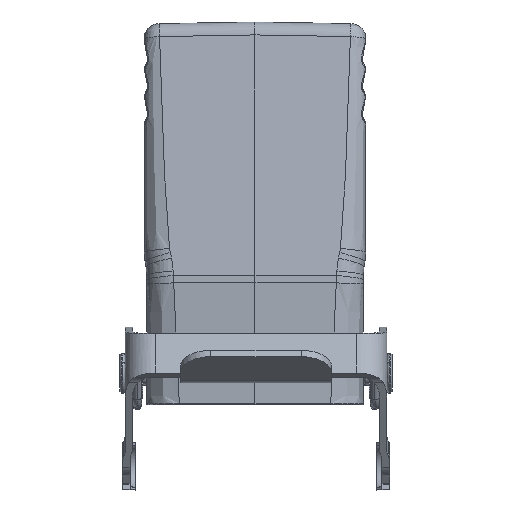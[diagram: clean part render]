
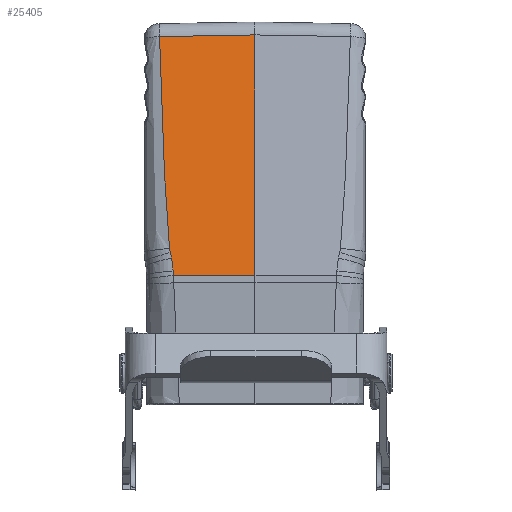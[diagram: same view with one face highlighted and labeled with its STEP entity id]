
A CAD part, left-side view. The second image highlights one B-rep face of the part: STEP entity #25405.
In plain terms, the highlighted planar face has unit normal (-0.989, 0.018, 0.145) as drawn and (-0.989, 0.145, -0.017) by its records, which use the part's own axes.
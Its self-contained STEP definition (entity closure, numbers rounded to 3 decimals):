
#982 = ORIENTED_EDGE ( 'NONE', *, *, #28931, .F. ) ;
#1087 = CARTESIAN_POINT ( 'NONE',  ( -35.461, 57.654, -16.759 ) ) ;
#1335 = ORIENTED_EDGE ( 'NONE', *, *, #23067, .F. ) ;
#1625 = CARTESIAN_POINT ( 'NONE',  ( -35.992, 54.101, -16.245 ) ) ;
#1949 = B_SPLINE_CURVE_WITH_KNOTS ( 'NONE', 3,
 ( #21994, #28999, #15184, #3487, #1087, #15086 ),
 .UNSPECIFIED., .F., .F.,
 ( 4, 2, 4 ),
 ( 0., 0.5, 1. ),
 .UNSPECIFIED. ) ;
#1966 = EDGE_CURVE ( 'NONE', #25853, #11123, #12954, .T. ) ;
#2271 = ORIENTED_EDGE ( 'NONE', *, *, #14588, .F. ) ;
#2609 = EDGE_CURVE ( 'NONE', #17145, #25853, #29143, .T. ) ;
#2759 = CARTESIAN_POINT ( 'NONE',  ( -35.73, 55.873, -16.368 ) ) ;
#2795 = PLANE ( 'NONE',  #26449 ) ;
#2859 = VERTEX_POINT ( 'NONE', #5809 ) ;
#3014 = ORIENTED_EDGE ( 'NONE', *, *, #2609, .F. ) ;
#3487 = CARTESIAN_POINT ( 'NONE',  ( -35.488, 57.471, -16.719 ) ) ;
#3491 = CARTESIAN_POINT ( 'NONE',  ( -36.091, 53.434, -16.218 ) ) ;
#3713 = CARTESIAN_POINT ( 'NONE',  ( -36.032, 53.834, -16.238 ) ) ;
#3843 = B_SPLINE_CURVE_WITH_KNOTS ( 'NONE', 3,
 ( #20113, #3932, #22517, #4149, #8594, #13260, #17967, #15623 ),
 .UNSPECIFIED., .F., .F.,
 ( 4, 2, 2, 4 ),
 ( 0., 0.5, 0.75, 1. ),
 .UNSPECIFIED. ) ;
#3932 = CARTESIAN_POINT ( 'NONE',  ( -34.271, 65.64, -17.62 ) ) ;
#4149 = CARTESIAN_POINT ( 'NONE',  ( -31.68, 83.171, -18.354 ) ) ;
#4278 = CARTESIAN_POINT ( 'NONE',  ( -29.091, 100.704, -18.941 ) ) ;
#4852 = LINE ( 'NONE', #29282, #9231 ) ;
#5117 = CARTESIAN_POINT ( 'NONE',  ( -35.32, 58.585, -16.954 ) ) ;
#5809 = CARTESIAN_POINT ( 'NONE',  ( -35.31, 58.655, -16.961 ) ) ;
#6828 = LINE ( 'NONE', #21978, #11527 ) ;
#6961 = CARTESIAN_POINT ( 'NONE',  ( -29.243, 101.99, 0.379 ) ) ;
#7299 = B_SPLINE_CURVE_WITH_KNOTS ( 'NONE', 3,
 ( #7614, #23874, #12275, #28535 ),
 .UNSPECIFIED., .F., .F.,
 ( 4, 4 ),
 ( 0., 1. ),
 .UNSPECIFIED. ) ;
#7437 = CARTESIAN_POINT ( 'NONE',  ( -35.423, 57.901, -16.825 ) ) ;
#7536 = CARTESIAN_POINT ( 'NONE',  ( -35.403, 58.035, -16.858 ) ) ;
#7614 = CARTESIAN_POINT ( 'NONE',  ( -29.091, 100.704, -18.941 ) ) ;
#7619 =( BOUNDED_CURVE ( )  B_SPLINE_CURVE ( 3, ( #21281, #7437, #7536, #19161, #9495, #5117, #23688 ),
 .UNSPECIFIED., .F., .T. ) 
 B_SPLINE_CURVE_WITH_KNOTS ( ( 4, 1, 1, 1, 4 ),
 ( 0., 0.248, 0.498, 0.749, 1. ),
 .UNSPECIFIED. ) 
 CURVE ( )  GEOMETRIC_REPRESENTATION_ITEM ( )  RATIONAL_B_SPLINE_CURVE ( ( 1.175, 1.175, 1.175, 1.175, 1.175, 1.175, 1.175 ) ) 
 REPRESENTATION_ITEM ( '' )  );
#7830 = VERTEX_POINT ( 'NONE', #14218 ) ;
#8173 = CARTESIAN_POINT ( 'NONE',  ( -36.111, 53.301, -16.208 ) ) ;
#8594 = CARTESIAN_POINT ( 'NONE',  ( -31.163, 86.678, -18.459 ) ) ;
#9231 = VECTOR ( 'NONE', #20071, 1000. ) ;
#9495 = CARTESIAN_POINT ( 'NONE',  ( -35.341, 58.445, -16.937 ) ) ;
#9617 = ORIENTED_EDGE ( 'NONE', *, *, #15700, .F. ) ;
#9937 = ORIENTED_EDGE ( 'NONE', *, *, #10284, .F. ) ;
#10044 = CARTESIAN_POINT ( 'NONE',  ( -35.599, 56.739, -16.56 ) ) ;
#10284 = EDGE_CURVE ( 'NONE', #13173, #7830, #4852, .T. ) ;
#10305 = DIRECTION ( 'NONE',  ( 0.989, -0.145, 0.017 ) ) ;
#10384 = ORIENTED_EDGE ( 'NONE', *, *, #26530, .F. ) ;
#10507 = DIRECTION ( 'NONE',  ( 0.017, -0.001, -1. ) ) ;
#11123 = VERTEX_POINT ( 'NONE', #10044 ) ;
#11527 = VECTOR ( 'NONE', #10507, 1000. ) ;
#12275 = CARTESIAN_POINT ( 'NONE',  ( -29.282, 100.925, -6.314 ) ) ;
#12378 = EDGE_LOOP ( 'NONE', ( #1335, #9617, #982, #17845, #3014, #10384, #9937, #2271 ) ) ;
#12954 = B_SPLINE_CURVE_WITH_KNOTS ( 'NONE', 3,
 ( #14321, #28310, #2759, #18738 ),
 .UNSPECIFIED., .F., .F.,
 ( 4, 4 ),
 ( 0., 1. ),
 .UNSPECIFIED. ) ;
#13139 = CARTESIAN_POINT ( 'NONE',  ( -36.071, 53.567, -16.229 ) ) ;
#13173 = VERTEX_POINT ( 'NONE', #14373 ) ;
#13260 = CARTESIAN_POINT ( 'NONE',  ( -30.127, 93.692, -18.679 ) ) ;
#14218 = CARTESIAN_POINT ( 'NONE',  ( -36.394, 53.321, 0. ) ) ;
#14321 = CARTESIAN_POINT ( 'NONE',  ( -35.992, 54.101, -16.245 ) ) ;
#14373 = CARTESIAN_POINT ( 'NONE',  ( -29.377, 101.035, 0. ) ) ;
#14588 = EDGE_CURVE ( 'NONE', #16646, #13173, #7299, .T. ) ;
#15086 = CARTESIAN_POINT ( 'NONE',  ( -35.433, 57.835, -16.808 ) ) ;
#15184 = CARTESIAN_POINT ( 'NONE',  ( -35.544, 57.105, -16.639 ) ) ;
#15513 = CARTESIAN_POINT ( 'NONE',  ( -36.012, 53.968, -16.238 ) ) ;
#15623 = CARTESIAN_POINT ( 'NONE',  ( -29.091, 100.704, -18.941 ) ) ;
#15700 = EDGE_CURVE ( 'NONE', #16480, #2859, #7619, .T. ) ;
#16480 = VERTEX_POINT ( 'NONE', #25494 ) ;
#16646 = VERTEX_POINT ( 'NONE', #4278 ) ;
#17145 = VERTEX_POINT ( 'NONE', #19772 ) ;
#17845 = ORIENTED_EDGE ( 'NONE', *, *, #1966, .F. ) ;
#17967 = CARTESIAN_POINT ( 'NONE',  ( -29.609, 97.199, -18.795 ) ) ;
#18738 = CARTESIAN_POINT ( 'NONE',  ( -35.599, 56.739, -16.56 ) ) ;
#19161 = CARTESIAN_POINT ( 'NONE',  ( -35.372, 58.239, -16.902 ) ) ;
#19769 = FACE_OUTER_BOUND ( 'NONE', #12378, .T. ) ;
#19772 = CARTESIAN_POINT ( 'NONE',  ( -36.111, 53.301, -16.208 ) ) ;
#20071 = DIRECTION ( 'NONE',  ( -0.145, -0.989, 0. ) ) ;
#20113 = CARTESIAN_POINT ( 'NONE',  ( -35.31, 58.655, -16.961 ) ) ;
#21281 = CARTESIAN_POINT ( 'NONE',  ( -35.433, 57.835, -16.808 ) ) ;
#21978 = CARTESIAN_POINT ( 'NONE',  ( -36.395, 53.322, 0.098 ) ) ;
#21994 = CARTESIAN_POINT ( 'NONE',  ( -35.599, 56.739, -16.56 ) ) ;
#22517 = CARTESIAN_POINT ( 'NONE',  ( -33.234, 72.652, -17.97 ) ) ;
#23067 = EDGE_CURVE ( 'NONE', #2859, #16646, #3843, .T. ) ;
#23688 = CARTESIAN_POINT ( 'NONE',  ( -35.31, 58.655, -16.961 ) ) ;
#23874 = CARTESIAN_POINT ( 'NONE',  ( -29.187, 100.814, -12.627 ) ) ;
#25405 = ADVANCED_FACE ( 'NONE', ( #19769 ), #2795, .F. ) ;
#25494 = CARTESIAN_POINT ( 'NONE',  ( -35.433, 57.835, -16.808 ) ) ;
#25853 = VERTEX_POINT ( 'NONE', #30087 ) ;
#26449 = AXIS2_PLACEMENT_3D ( 'NONE', #6961, #10305, #26514 ) ;
#26514 = DIRECTION ( 'NONE',  ( -0.145, -0.989, 0. ) ) ;
#26530 = EDGE_CURVE ( 'NONE', #7830, #17145, #6828, .T. ) ;
#28310 = CARTESIAN_POINT ( 'NONE',  ( -35.861, 54.987, -16.277 ) ) ;
#28535 = CARTESIAN_POINT ( 'NONE',  ( -29.377, 101.035, 0. ) ) ;
#28931 = EDGE_CURVE ( 'NONE', #11123, #16480, #1949, .T. ) ;
#28999 = CARTESIAN_POINT ( 'NONE',  ( -35.571, 56.922, -16.599 ) ) ;
#29143 = B_SPLINE_CURVE_WITH_KNOTS ( 'NONE', 3,
 ( #8173, #3491, #13139, #3713, #15513, #1625 ),
 .UNSPECIFIED., .F., .F.,
 ( 4, 2, 4 ),
 ( 0., 0.5, 1. ),
 .UNSPECIFIED. ) ;
#29282 = CARTESIAN_POINT ( 'NONE',  ( -32.885, 77.178, 0. ) ) ;
#30087 = CARTESIAN_POINT ( 'NONE',  ( -35.992, 54.101, -16.245 ) ) ;
